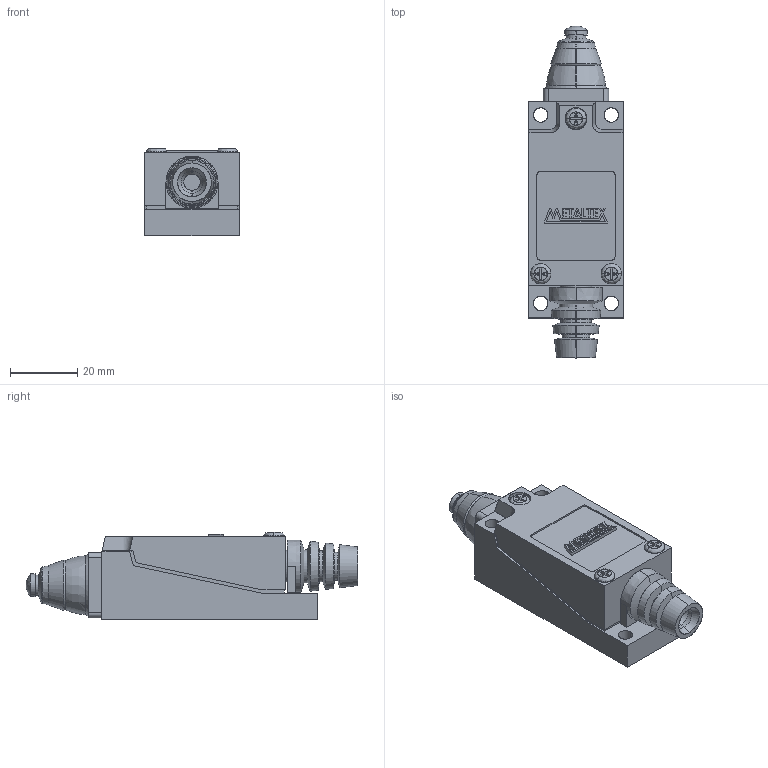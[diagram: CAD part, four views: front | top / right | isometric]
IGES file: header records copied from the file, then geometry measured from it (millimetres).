
Start section: SolidWorks IGES file using analytic representation for surfaces
Global section: file name: D:\X - Arquivos\PROEX\Empresas\P11 - METALTEX\01 - Produtos\IGES\4ª remessa\6ª etapa\FM8111.IGS; native system: SolidWorks 2012; preprocessor: SolidWorks 2012; author: Usuario; date: 180620.132359; units: millimetre
Bounding box: 28 x 98.73 x 25.9 mm (x, y, z)
Surface area: 11709.7 mm2 (no closed solid volume)
Topology: 0 solids, 0 shells, 271 faces, 2380 edges, 2380 vertices
Faces by surface type: bspline 200, revolution 71
